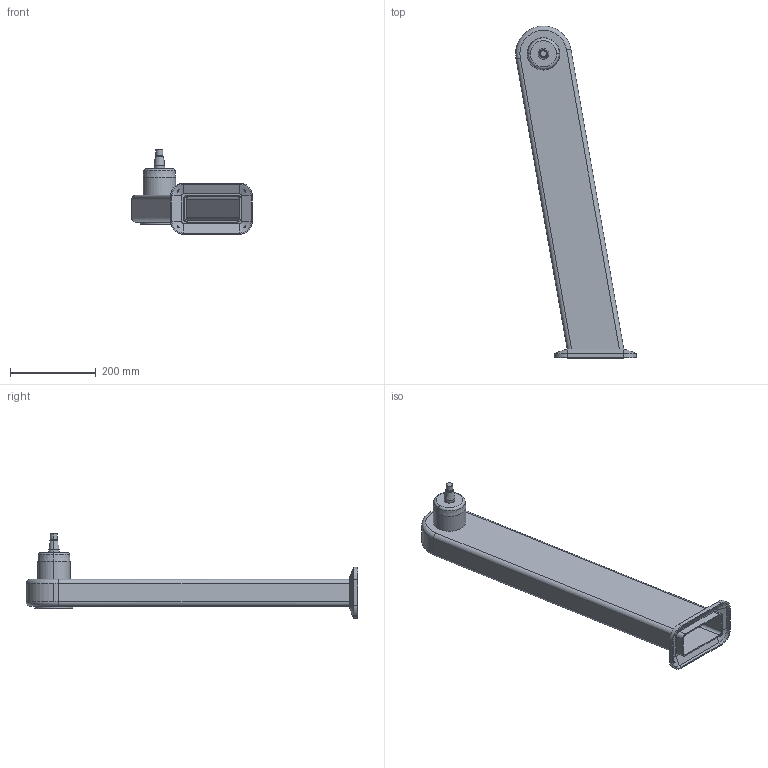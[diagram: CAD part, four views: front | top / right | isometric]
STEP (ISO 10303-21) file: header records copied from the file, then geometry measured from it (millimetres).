
FILE_DESCRIPTION (( 'STEP AP214' ), '1' );
FILE_NAME ('WP710_H710_-10.STEP', '2014-06-27T07:54:23', ( '' ), ( '' ), 'SwSTEP 2.0', 'SolidWorks 2014', '' );
FILE_SCHEMA (( 'AUTOMOTIVE_DESIGN' ));
Length unit declared in the file: millimetre
Products named in the file (1): WP710_H710_-10
Bounding box: 282.17 x 775 x 198 mm (x, y, z)
Volume: 1258833.6 mm3; surface area: 624384 mm2
Topology: 1 solids, 1 shells, 112 faces, 250 edges, 152 vertices
Faces by surface type: cylinder 44, plane 40, cone 20, torus 8
Entity records: 3211 total; most frequent: CARTESIAN_POINT 668, DIRECTION 552, ORIENTED_EDGE 500, EDGE_CURVE 250, AXIS2_PLACEMENT_3D 211, VERTEX_POINT 152, VECTOR 130, LINE 130
